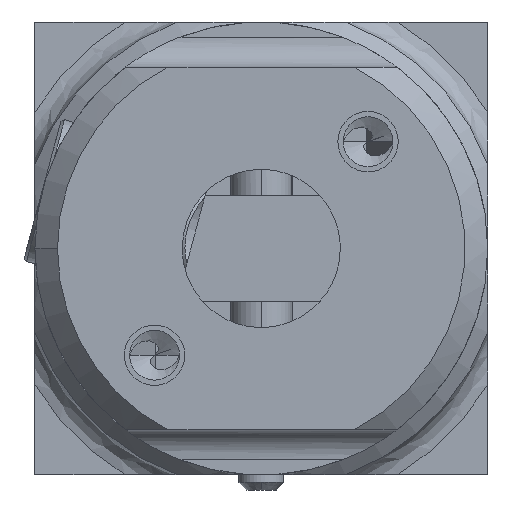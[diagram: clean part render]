
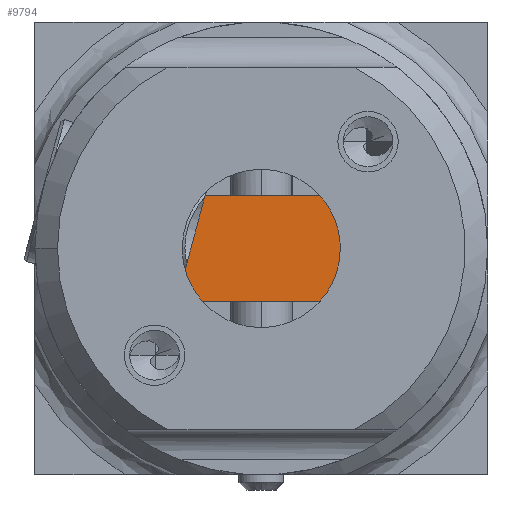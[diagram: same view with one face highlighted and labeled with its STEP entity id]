
A CAD part, left-side view. The second image highlights one B-rep face of the part: STEP entity #9794.
In plain terms, the highlighted planar face has unit normal (1, 0, 0).
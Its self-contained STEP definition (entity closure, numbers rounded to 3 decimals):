
#62 = LINE ( 'NONE', #2783, #2302 ) ;
#411 = FACE_OUTER_BOUND ( 'NONE', #9745, .T. ) ;
#2302 = VECTOR ( 'NONE', #3077, 1000. ) ;
#2399 = B_SPLINE_CURVE_WITH_KNOTS ( 'NONE', 1,
 ( #12101, #12034 ),
 .UNSPECIFIED., .F., .F.,
 ( 2, 2 ),
 ( 0., 7. ),
 .UNSPECIFIED. ) ;
#2783 = CARTESIAN_POINT ( 'NONE',  ( 10.382, -10.663, 3.5 ) ) ;
#3049 = VERTEX_POINT ( 'NONE', #3178 ) ;
#3077 = DIRECTION ( 'NONE',  ( 0., 1., 0. ) ) ;
#3178 = CARTESIAN_POINT ( 'NONE',  ( 10.382, 4.337, 3.5 ) ) ;
#3704 = VERTEX_POINT ( 'NONE', #6525 ) ;
#3728 = VERTEX_POINT ( 'NONE', #6152 ) ;
#4743 = CARTESIAN_POINT ( 'NONE',  ( 10.382, -25.663, -3.5 ) ) ;
#4774 = CARTESIAN_POINT ( 'NONE',  ( 10.382, 4.337, -3.5 ) ) ;
#6152 = CARTESIAN_POINT ( 'NONE',  ( 10.382, 4.337, -3.5 ) ) ;
#6525 = CARTESIAN_POINT ( 'NONE',  ( 10.382, -25.663, 3.5 ) ) ;
#7124 = VERTEX_POINT ( 'NONE', #11989 ) ;
#8706 = CARTESIAN_POINT ( 'NONE',  ( 10.382, 4.337, 0. ) ) ;
#8745 = DIRECTION ( 'NONE',  ( 0., 0., -1. ) ) ;
#9220 = EDGE_CURVE ( 'NONE', #3049, #3728, #10117, .T. ) ;
#9556 = AXIS2_PLACEMENT_3D ( 'NONE', #12215, #11620, #11616 ) ;
#9745 = EDGE_LOOP ( 'NONE', ( #9841, #10362, #10615, #10544 ) ) ;
#9794 = ADVANCED_FACE ( 'NONE', ( #411 ), #11670, .T. ) ;
#9841 = ORIENTED_EDGE ( 'NONE', *, *, #9220, .F. ) ;
#10117 = LINE ( 'NONE', #8706, #10470 ) ;
#10362 = ORIENTED_EDGE ( 'NONE', *, *, #11560, .F. ) ;
#10470 = VECTOR ( 'NONE', #8745, 1000. ) ;
#10544 = ORIENTED_EDGE ( 'NONE', *, *, #10754, .T. ) ;
#10615 = ORIENTED_EDGE ( 'NONE', *, *, #11915, .T. ) ;
#10754 = EDGE_CURVE ( 'NONE', #7124, #3728, #10992, .T. ) ;
#10992 = B_SPLINE_CURVE_WITH_KNOTS ( 'NONE', 1,
 ( #4743, #4774 ),
 .UNSPECIFIED., .F., .F.,
 ( 2, 2 ),
 ( 0., 30. ),
 .UNSPECIFIED. ) ;
#11560 = EDGE_CURVE ( 'NONE', #3704, #3049, #62, .T. ) ;
#11616 = DIRECTION ( 'NONE',  ( 0., 0., 1. ) ) ;
#11620 = DIRECTION ( 'NONE',  ( 1., 0., 0. ) ) ;
#11670 = PLANE ( 'NONE',  #9556 ) ;
#11915 = EDGE_CURVE ( 'NONE', #3704, #7124, #2399, .T. ) ;
#11989 = CARTESIAN_POINT ( 'NONE',  ( 10.382, -25.663, -3.5 ) ) ;
#12034 = CARTESIAN_POINT ( 'NONE',  ( 10.382, -25.663, -3.5 ) ) ;
#12101 = CARTESIAN_POINT ( 'NONE',  ( 10.382, -25.663, 3.5 ) ) ;
#12215 = CARTESIAN_POINT ( 'NONE',  ( 10.382, 4.337, -3.5 ) ) ;
